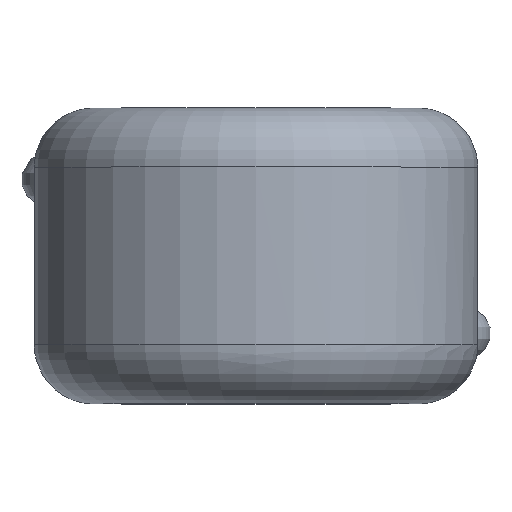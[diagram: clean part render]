
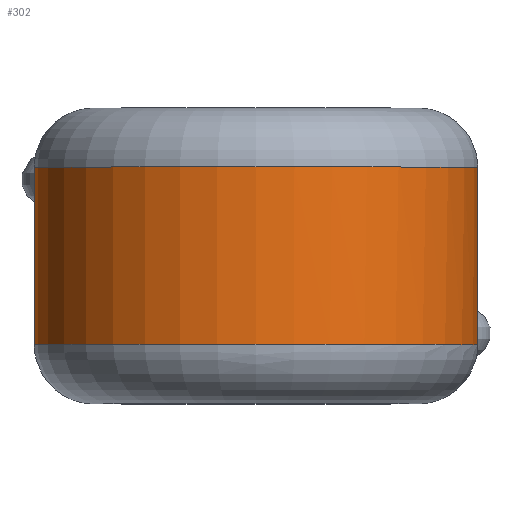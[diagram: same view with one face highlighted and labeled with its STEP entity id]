
A CAD part, top view. The second image highlights one B-rep face of the part: STEP entity #302.
In plain terms, the highlighted cylindrical face has radius 3.75 mm (diameter 7.5 mm), a full revolution.
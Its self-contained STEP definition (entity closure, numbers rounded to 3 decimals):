
#24=B_SPLINE_CURVE_WITH_KNOTS('',3,(#1049,#1050,#1051,#1052,#1053,#1054,
#1055,#1056,#1057,#1058),.UNSPECIFIED.,.F.,.F.,(4,1,1,1,1,1,1,4),(-0.222,
-0.19,-0.158,-0.127,-0.095,
-0.063,-0.032,0.),.UNSPECIFIED.);
#26=B_SPLINE_CURVE_WITH_KNOTS('',3,(#1120,#1121,#1122,#1123,#1124,#1125,
#1126,#1127,#1128,#1129),.UNSPECIFIED.,.F.,.F.,(4,1,1,1,1,1,1,4),(-0.222,
-0.19,-0.158,-0.127,-0.095,
-0.063,-0.032,0.),.UNSPECIFIED.);
#72=FACE_OUTER_BOUND('',#92,.T.);
#92=EDGE_LOOP('',(#241,#242,#243,#244,#245,#246,#247,#248,#249,#250));
#105=LINE('',#1114,#108);
#108=VECTOR('',#407,3.75);
#120=CIRCLE('',#347,3.75);
#121=CIRCLE('',#348,3.75);
#122=CIRCLE('',#349,3.75);
#123=CIRCLE('',#351,3.75);
#124=CIRCLE('',#352,3.75);
#125=CIRCLE('',#353,3.75);
#143=VERTEX_POINT('',#1045);
#144=VERTEX_POINT('',#1047);
#147=VERTEX_POINT('',#1106);
#148=VERTEX_POINT('',#1109);
#149=VERTEX_POINT('',#1113);
#150=VERTEX_POINT('',#1115);
#151=VERTEX_POINT('',#1117);
#152=VERTEX_POINT('',#1119);
#176=EDGE_CURVE('',#143,#144,#24,.T.);
#181=EDGE_CURVE('',#144,#147,#120,.T.);
#182=EDGE_CURVE('',#148,#143,#121,.T.);
#183=EDGE_CURVE('',#147,#148,#122,.T.);
#184=EDGE_CURVE('',#148,#149,#105,.T.);
#185=EDGE_CURVE('',#149,#150,#123,.T.);
#186=EDGE_CURVE('',#150,#151,#124,.T.);
#187=EDGE_CURVE('',#151,#152,#26,.T.);
#188=EDGE_CURVE('',#152,#149,#125,.T.);
#241=ORIENTED_EDGE('',*,*,#176,.T.);
#242=ORIENTED_EDGE('',*,*,#181,.T.);
#243=ORIENTED_EDGE('',*,*,#183,.T.);
#244=ORIENTED_EDGE('',*,*,#184,.T.);
#245=ORIENTED_EDGE('',*,*,#185,.T.);
#246=ORIENTED_EDGE('',*,*,#186,.T.);
#247=ORIENTED_EDGE('',*,*,#187,.T.);
#248=ORIENTED_EDGE('',*,*,#188,.T.);
#249=ORIENTED_EDGE('',*,*,#184,.F.);
#250=ORIENTED_EDGE('',*,*,#182,.T.);
#292=CYLINDRICAL_SURFACE('',#350,3.75);
#302=ADVANCED_FACE('',(#72),#292,.T.);
#347=AXIS2_PLACEMENT_3D('',#1108,#399,#400);
#348=AXIS2_PLACEMENT_3D('',#1110,#401,#402);
#349=AXIS2_PLACEMENT_3D('',#1111,#403,#404);
#350=AXIS2_PLACEMENT_3D('',#1112,#405,#406);
#351=AXIS2_PLACEMENT_3D('',#1116,#408,#409);
#352=AXIS2_PLACEMENT_3D('',#1118,#410,#411);
#353=AXIS2_PLACEMENT_3D('',#1130,#412,#413);
#399=DIRECTION('center_axis',(0.,-1.,0.));
#400=DIRECTION('ref_axis',(-1.,0.,0.));
#401=DIRECTION('center_axis',(0.,-1.,0.));
#402=DIRECTION('ref_axis',(-1.,0.,0.));
#403=DIRECTION('center_axis',(0.,-1.,0.));
#404=DIRECTION('ref_axis',(-1.,0.,0.));
#405=DIRECTION('center_axis',(0.,-1.,0.));
#406=DIRECTION('ref_axis',(1.,0.,0.));
#407=DIRECTION('',(0.,-1.,0.));
#408=DIRECTION('center_axis',(0.,1.,0.));
#409=DIRECTION('ref_axis',(-1.,0.,0.));
#410=DIRECTION('center_axis',(0.,1.,0.));
#411=DIRECTION('ref_axis',(-1.,0.,0.));
#412=DIRECTION('center_axis',(0.,1.,0.));
#413=DIRECTION('ref_axis',(-1.,0.,0.));
#1045=CARTESIAN_POINT('',(-3.002,1.5,-2.247));
#1047=CARTESIAN_POINT('',(-2.263,1.5,-2.99));
#1049=CARTESIAN_POINT('Ctrl Pts',(-3.002,1.5,-2.247));
#1050=CARTESIAN_POINT('Ctrl Pts',(-3.024,1.401,-2.218));
#1051=CARTESIAN_POINT('Ctrl Pts',(-3.034,1.182,-2.204));
#1052=CARTESIAN_POINT('Ctrl Pts',(-2.947,0.889,-2.322));
#1053=CARTESIAN_POINT('Ctrl Pts',(-2.773,0.716,-2.532));
#1054=CARTESIAN_POINT('Ctrl Pts',(-2.546,0.717,-2.759));
#1055=CARTESIAN_POINT('Ctrl Pts',(-2.338,0.889,-2.935));
#1056=CARTESIAN_POINT('Ctrl Pts',(-2.22,1.182,-3.022));
#1057=CARTESIAN_POINT('Ctrl Pts',(-2.234,1.401,-3.012));
#1058=CARTESIAN_POINT('Ctrl Pts',(-2.263,1.5,-2.99));
#1106=CARTESIAN_POINT('',(0.,1.5,-3.75));
#1108=CARTESIAN_POINT('Origin',(0.,1.5,0.));
#1109=CARTESIAN_POINT('',(-3.75,1.5,0.));
#1110=CARTESIAN_POINT('Origin',(0.,1.5,0.));
#1111=CARTESIAN_POINT('Origin',(0.,1.5,0.));
#1112=CARTESIAN_POINT('Origin',(0.,0.,0.));
#1113=CARTESIAN_POINT('',(-3.75,-1.5,0.));
#1114=CARTESIAN_POINT('',(-3.75,0.,0.));
#1115=CARTESIAN_POINT('',(0.,-1.5,3.75));
#1116=CARTESIAN_POINT('Origin',(0.,-1.5,0.));
#1117=CARTESIAN_POINT('',(3.002,-1.5,-2.247));
#1118=CARTESIAN_POINT('Origin',(0.,-1.5,0.));
#1119=CARTESIAN_POINT('',(2.263,-1.5,-2.99));
#1120=CARTESIAN_POINT('Ctrl Pts',(3.002,-1.5,-2.247));
#1121=CARTESIAN_POINT('Ctrl Pts',(3.024,-1.401,-2.218));
#1122=CARTESIAN_POINT('Ctrl Pts',(3.034,-1.182,-2.204));
#1123=CARTESIAN_POINT('Ctrl Pts',(2.947,-0.889,-2.322));
#1124=CARTESIAN_POINT('Ctrl Pts',(2.772,-0.717,-2.532));
#1125=CARTESIAN_POINT('Ctrl Pts',(2.546,-0.716,-2.759));
#1126=CARTESIAN_POINT('Ctrl Pts',(2.338,-0.89,-2.935));
#1127=CARTESIAN_POINT('Ctrl Pts',(2.22,-1.182,-3.022));
#1128=CARTESIAN_POINT('Ctrl Pts',(2.234,-1.401,-3.012));
#1129=CARTESIAN_POINT('Ctrl Pts',(2.263,-1.5,-2.99));
#1130=CARTESIAN_POINT('Origin',(0.,-1.5,0.));
